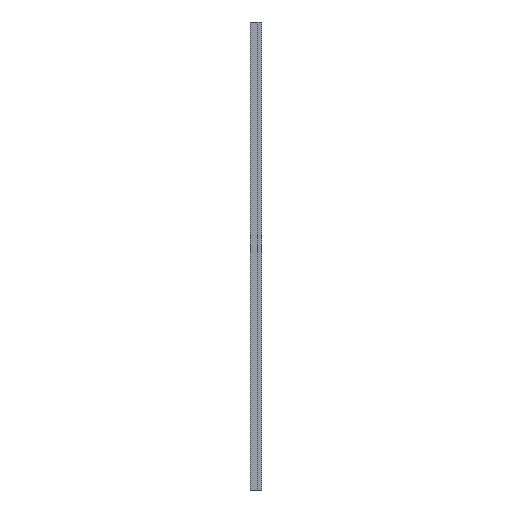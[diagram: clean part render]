
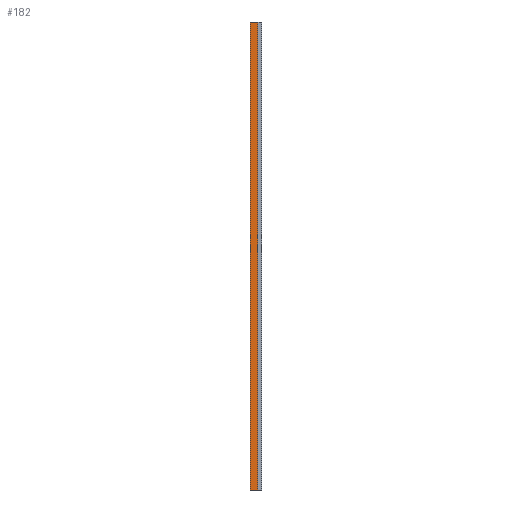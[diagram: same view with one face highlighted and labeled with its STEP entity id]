
A CAD part, left-side view. The second image highlights one B-rep face of the part: STEP entity #182.
In plain terms, the highlighted planar face has unit normal (-1, 0, 0).
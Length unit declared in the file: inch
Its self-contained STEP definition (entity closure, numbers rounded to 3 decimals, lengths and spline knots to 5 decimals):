
#18=PLANE('',#218);
#28=FACE_OUTER_BOUND('',#38,.T.);
#38=EDGE_LOOP('',(#147,#148,#149,#150));
#54=LINE('',#306,#74);
#55=LINE('',#309,#75);
#56=LINE('',#311,#76);
#57=LINE('',#312,#77);
#74=VECTOR('',#254,0.3937);
#75=VECTOR('',#257,0.3937);
#76=VECTOR('',#258,0.3937);
#77=VECTOR('',#259,0.3937);
#97=VERTEX_POINT('',#302);
#98=VERTEX_POINT('',#304);
#99=VERTEX_POINT('',#308);
#100=VERTEX_POINT('',#310);
#118=EDGE_CURVE('',#97,#98,#54,.T.);
#119=EDGE_CURVE('',#99,#97,#55,.T.);
#120=EDGE_CURVE('',#100,#98,#56,.T.);
#121=EDGE_CURVE('',#99,#100,#57,.T.);
#147=ORIENTED_EDGE('',*,*,#119,.T.);
#148=ORIENTED_EDGE('',*,*,#118,.T.);
#149=ORIENTED_EDGE('',*,*,#120,.F.);
#150=ORIENTED_EDGE('',*,*,#121,.F.);
#182=ADVANCED_FACE('',(#28),#18,.T.);
#218=AXIS2_PLACEMENT_3D('',#307,#255,#256);
#254=DIRECTION('',(0.,0.,1.));
#255=DIRECTION('center_axis',(-1.,0.,0.));
#256=DIRECTION('ref_axis',(0.,-1.,0.));
#257=DIRECTION('',(0.,-1.,0.));
#258=DIRECTION('',(0.,-1.,0.));
#259=DIRECTION('',(0.,0.,1.));
#302=CARTESIAN_POINT('',(0.61687,-0.52515,0.));
#304=CARTESIAN_POINT('',(0.61687,-0.52515,120.));
#306=CARTESIAN_POINT('',(0.61687,-0.52515,0.));
#307=CARTESIAN_POINT('Origin',(0.61687,2.43985,0.));
#308=CARTESIAN_POINT('',(0.61687,2.43985,0.));
#309=CARTESIAN_POINT('',(0.61687,2.43985,0.));
#310=CARTESIAN_POINT('',(0.61687,2.43985,120.));
#311=CARTESIAN_POINT('',(0.61687,2.43985,120.));
#312=CARTESIAN_POINT('',(0.61687,2.43985,0.));
